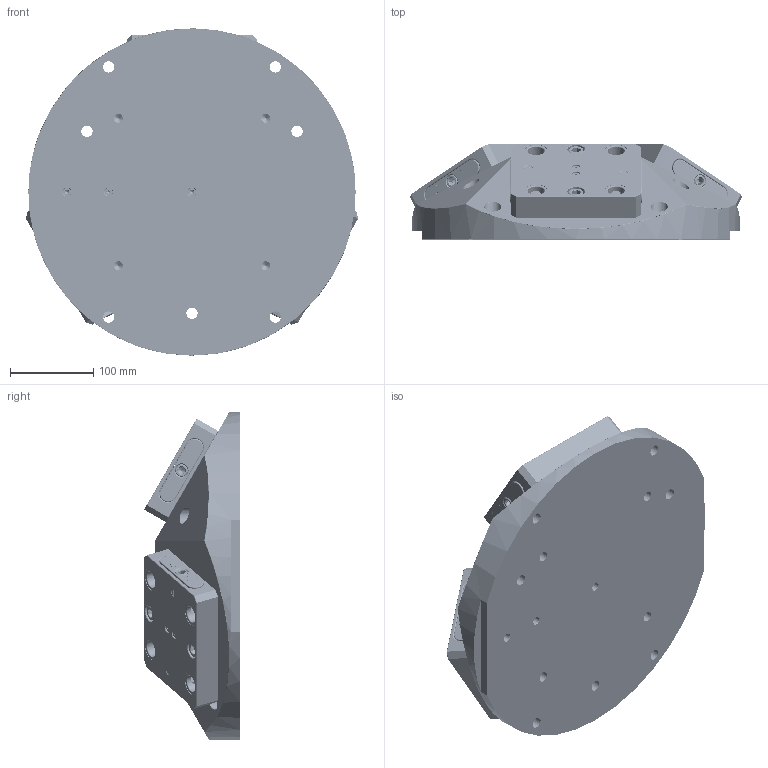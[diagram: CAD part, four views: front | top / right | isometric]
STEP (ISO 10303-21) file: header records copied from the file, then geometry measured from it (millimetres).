
FILE_DESCRIPTION (( 'STEP AP214' ), '1' );
FILE_NAME ('PY30RL96-56.STEP', '2018-08-22T16:42:06', ( '' ), ( '' ), 'SwSTEP 2.0', 'SolidWorks 2017', '' );
FILE_SCHEMA (( 'AUTOMOTIVE_DESIGN' ));
Length unit declared in the file: inch
Products named in the file (13): PY30RL96-56; LP8_LP8; 91290A616_BLACK-OXIDE CLASS 12.9 SOCKET HEAD CAP SCREW_91290A616; RL96A-56; RockLock Single Position; RL96-6_95258A216; RL96-5; RL96-4; RL96-3; RL96-2R; RL96-2L; RL96A-56-1; PY30RL96-56-1_FINISHED PART
Assembly tree (29 placements, depth 4):
  PY30RL96-56
    PY30RL96-56-1_FINISHED PART
    RL96A-56  x3
      RL96A-56-1
      RockLock Single Position
        RL96-2L
        RL96-2R
        RL96-3
        RL96-4  x4
        RL96-5  x2
        RL96-6_95258A216  x2
    91290A616_BLACK-OXIDE CLASS 12.9 SOCKET HEAD CAP SCREW_91290A616  x6
    LP8_LP8  x6
Bounding box: 398.2 x 114.38 x 392.43 mm (x, y, z)
Volume: 8734043.4 mm3; surface area: 699901.1 mm2
Topology: 49 solids, 49 shells, 3860 faces, 9470 edges, 5948 vertices
Faces by surface type: plane 1515, cylinder 1249, cone 641, bspline 335, torus 120
Entity records: 53150 total; most frequent: CARTESIAN_POINT 22273, ORIENTED_EDGE 6264, DIRECTION 6022, EDGE_CURVE 3132, AXIS2_PLACEMENT_3D 2181, VERTEX_POINT 1978, LINE 1660, VECTOR 1660
